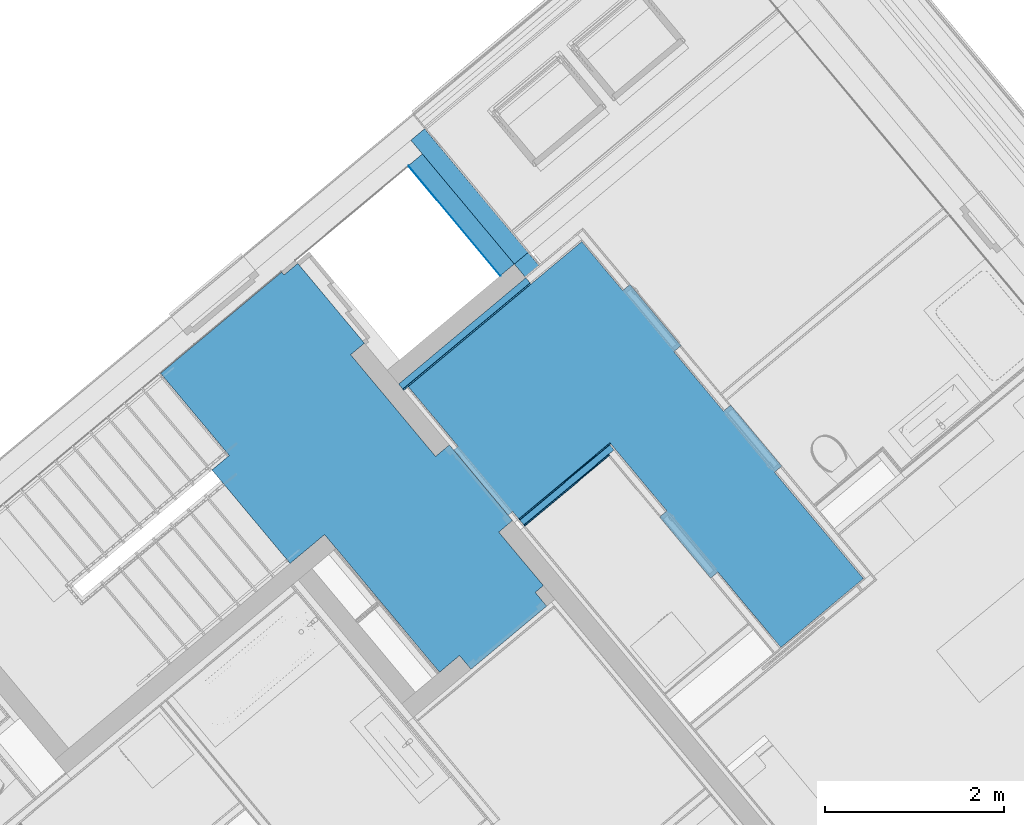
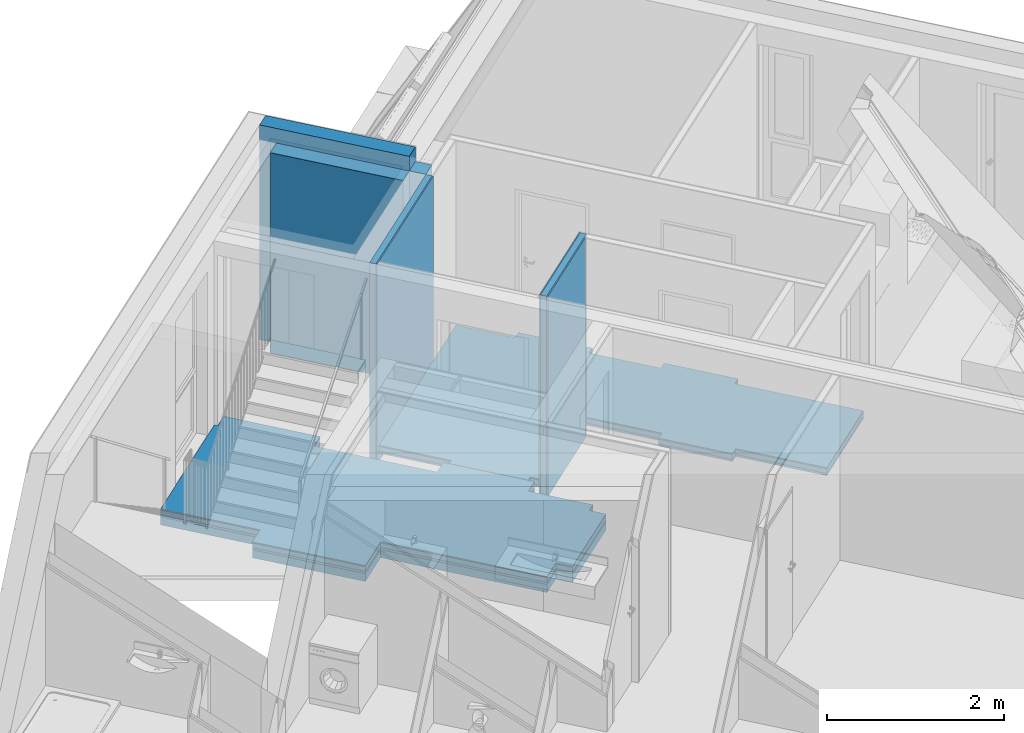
# One storey, part 36 of 61: 15 building element parts, 5 elements without a shape of their own.
"""IFC4 building model written with IfcOpenShell, lengths in metres."""

from ifc_helpers import new_model, entity, si_unit, converted_unit, derived_unit, direction, frame, origin_with_axes, place, context, subcontext, project, spatial, polygons, material, type_object, element, aggregate, save


model = new_model("IFC4")

# Units and contexts
model_context = context("Model", 3, precision=1e-05, world=origin_with_axes(), true_north=direction((0.0, 1.0)))
body_context = subcontext(model_context, "Body", "Model", "MODEL_VIEW")
ifc_project = project(units=[si_unit("LENGTHUNIT", "METRE"), si_unit("AREAUNIT", "SQUARE_METRE"), si_unit("VOLUMEUNIT", "CUBIC_METRE"), converted_unit("PLANEANGLEUNIT", "DEGREE", entity("IfcPlaneAngleMeasure", 0.0174532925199), si_unit("PLANEANGLEUNIT", "RADIAN"), dimensions=[0, 0, 0, 0, 0, 0, 0]), converted_unit("TIMEUNIT", "Year", entity("IfcTimeMeasure", 31556926.0), si_unit("TIMEUNIT", "SECOND"), dimensions=[0, 0, 1, 0, 0, 0, 0]), si_unit("MASSUNIT", "GRAM", prefix="KILO"), si_unit("THERMODYNAMICTEMPERATUREUNIT", "DEGREE_CELSIUS"), si_unit("LUMINOUSINTENSITYUNIT", "LUMEN"), si_unit("ENERGYUNIT", "JOULE", prefix="MEGA"), derived_unit("THERMALCONDUCTANCEUNIT", [(si_unit("POWERUNIT", "WATT"), 1), (si_unit("LENGTHUNIT", "METRE"), -1), (si_unit("THERMODYNAMICTEMPERATUREUNIT", "KELVIN"), -1)]), derived_unit("SPECIFICHEATCAPACITYUNIT", [(si_unit("ENERGYUNIT", "JOULE"), 1), (si_unit("MASSUNIT", "GRAM", prefix="KILO"), -1), (si_unit("THERMODYNAMICTEMPERATUREUNIT", "KELVIN"), -1)]), derived_unit("MASSDENSITYUNIT", [(si_unit("MASSUNIT", "GRAM", prefix="KILO"), 1), (si_unit("VOLUMEUNIT", "CUBIC_METRE"), -1)])], contexts=[model_context])

# Site, building, storey
site_placement = place(None, frame((-0.00153261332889, -0.00661245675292, 0.0), z_axis=(0.0, 0.0, 1.0), x_axis=(1.0, 0.0, 0.0)))
site = spatial("IfcSite", under=ifc_project, at=site_placement, Name="Gelände", CompositionType="ELEMENT")
building_placement = place(site_placement, origin_with_axes())
building = spatial("IfcBuilding", under=site, at=building_placement, Name="Gebäude", CompositionType="ELEMENT")
storey_placement = place(building_placement, frame((0.0, 0.0, 5.7), z_axis=(0.0, 0.0, 1.0), x_axis=(1.0, 0.0, 0.0)))
storey = spatial("IfcBuildingStorey", under=building, at=storey_placement, Name="DG1", CompositionType="ELEMENT", Elevation=5.7)

# Wall, building element parts
wall_type_1 = type_object("IfcWallType", Name="IW LB 01 Leichtbautrennwand einfach 10,5 cm 105", PredefinedType="NOTDEFINED")
wall_1_placement = place(storey_placement, frame((2.89957040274, 23.0457904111, 0.0), z_axis=(0.0, 0.0, 1.0), x_axis=(0.767365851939, 0.641209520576, 0.0)))
wall_1 = element("IfcWall", 1, at=wall_1_placement, inside=storey, type_object=wall_type_1, Name="Wand-012", PredefinedType="NOTDEFINED")
ifc_material_1 = material(Name="Gipskarton")
building_element_part_1_placement = place(wall_1_placement, origin_with_axes())
building_element_part_1 = element("IfcBuildingElementPart", 2, at=building_element_part_1_placement, material=ifc_material_1, Name="Gipskarton", PredefinedType="NOTDEFINED", context=body_context, shape_type="Tessellation", body=[
    polygons([(1.32598775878, 0.09, 0.0), (0.00104109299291, 0.09, 0.0), (0.00104083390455, 0.105, 0.0), (1.32598775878, 0.105, 0.0), (1.32598775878, 0.09, 2.76), (0.00104109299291, 0.09, 2.76), (0.00104083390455, 0.105, 2.76), (1.32598775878, 0.105, 2.76)], [[[1, 2, 3, 4]], [[5, 6, 2, 1]], [[3, 2, 6, 7]], [[4, 3, 7, 8]], [[4, 8, 5, 1]], [[8, 7, 6, 5]]], closed=True),
])
ifc_material_2 = material(Name="Mineralwolle weich")
building_element_part_2_placement = place(wall_1_placement, origin_with_axes())
building_element_part_2 = element("IfcBuildingElementPart", 3, at=building_element_part_2_placement, material=ifc_material_2, Name="Mineralwolle weich", PredefinedType="NOTDEFINED", context=body_context, shape_type="Tessellation", body=[
    polygons([(1.31098775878, 0.015, 0.0), (0.00104238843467, 0.015, 0.0), (0.00104109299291, 0.09, 0.0), (1.31098775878, 0.09, 0.0), (1.31098775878, 0.015, 2.76), (0.00104238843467, 0.015, 2.76), (0.00104109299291, 0.09, 2.76), (1.31098775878, 0.09, 2.76)], [[[1, 2, 3, 4]], [[5, 6, 2, 1]], [[3, 2, 6, 7]], [[4, 3, 7, 8]], [[4, 8, 5, 1]], [[8, 7, 6, 5]]], closed=True),
])
building_element_part_3_placement = place(wall_1_placement, origin_with_axes())
building_element_part_3 = element("IfcBuildingElementPart", 4, at=building_element_part_3_placement, material=ifc_material_1, Name="Gipskarton", PredefinedType="NOTDEFINED", context=body_context, shape_type="Tessellation", body=[
    polygons([(1.23598775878, 0.0, 0.0), (0.00104264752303, 0.0, 0.0), (0.00104238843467, 0.015, 0.0), (1.23598775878, 0.015, 0.0), (1.23598775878, 0.0, 2.76), (0.00104264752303, 0.0, 2.76), (0.00104238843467, 0.015, 2.76), (1.23598775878, 0.015, 2.76)], [[[1, 2, 3, 4]], [[5, 6, 2, 1]], [[3, 2, 6, 7]], [[4, 3, 7, 8]], [[4, 8, 5, 1]], [[8, 7, 6, 5]]], closed=True),
])
aggregate(wall_1, [building_element_part_1, building_element_part_2, building_element_part_3])

wall_type_2 = type_object("IfcWallType", Name="LB 9,0 cm einfache Vorsatzschale  90", PredefinedType="NOTDEFINED")
wall_2_placement = place(storey_placement, frame((1.49097783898, 24.6317179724, 0.0), z_axis=(0.0, 0.0, 1.0), x_axis=(0.767354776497, 0.641222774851, 0.0)))
wall_2 = element("IfcWall", 5, at=wall_2_placement, inside=storey, type_object=wall_type_2, Name="Wand-006", PredefinedType="NOTDEFINED")
building_element_part_4_placement = place(wall_2_placement, origin_with_axes())
building_element_part_4 = element("IfcBuildingElementPart", 6, at=building_element_part_4_placement, material=ifc_material_2, Name="Mineralwolle weich", PredefinedType="NOTDEFINED", context=body_context, shape_type="Tessellation", body=[
    polygons([(1.85060898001, -0.075, 2.76), (1.85060898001, 0.0, 2.76), (0.000912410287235, 0.0, 2.76), (0.000906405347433, -0.075, 2.76), (1.85060898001, -0.075, 0.0), (1.85060898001, 0.0, 0.0), (0.000912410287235, 0.0, 0.0), (0.000906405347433, -0.075, 0.0)], [[[1, 2, 3, 4]], [[1, 5, 6, 2]], [[2, 6, 7, 3]], [[4, 3, 7, 8]], [[5, 1, 4, 8]], [[6, 5, 8, 7]]], closed=True),
])
building_element_part_5_placement = place(wall_2_placement, origin_with_axes())
building_element_part_5 = element("IfcBuildingElementPart", 7, at=building_element_part_5_placement, material=ifc_material_1, Name="Gipskarton", PredefinedType="NOTDEFINED", context=body_context, shape_type="Tessellation", body=[
    polygons([(1.85060898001, -0.09, 2.76), (1.85060898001, -0.075, 2.76), (0.000906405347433, -0.075, 2.76), (0.000905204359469, -0.09, 2.76), (1.85060898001, -0.09, 0.0), (1.85060898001, -0.075, 0.0), (0.000906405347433, -0.075, 0.0), (0.000905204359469, -0.09, 0.0)], [[[1, 2, 3, 4]], [[1, 5, 6, 2]], [[2, 6, 7, 3]], [[4, 3, 7, 8]], [[5, 1, 4, 8]], [[6, 5, 8, 7]]], closed=True),
])
aggregate(wall_2, [building_element_part_4, building_element_part_5])

# Space
space_placement = place(storey_placement, frame((2.62932542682, 25.8435926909, 0.0), z_axis=(0.0, 0.0, 1.0), x_axis=(-0.641209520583, 0.767365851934, 0.0)))
space = spatial("IfcSpace", under=storey, at=space_placement, CompositionType="ELEMENT", PredefinedType="NOTDEFINED")

# Wall, building element parts
wall_type_3 = type_object("IfcWallType", Name="AW EG 420", PredefinedType="NOTDEFINED")
wall_3_placement = place(space_placement, frame((2.84223588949e-05, 0.00499999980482, 0.0), z_axis=(0.0, 0.0, 1.0), x_axis=(1.0, 0.0, 0.0)))
wall_3 = element("IfcWall", 8, at=wall_3_placement, inside=space, type_object=wall_type_3, Name="Wand-003", PredefinedType="NOTDEFINED")
ifc_material_3 = material(Name="Zementputz")
building_element_part_6_placement = place(wall_3_placement, origin_with_axes())
building_element_part_6 = element("IfcBuildingElementPart", 9, at=building_element_part_6_placement, material=ifc_material_3, Name="Zementputz", PredefinedType="NOTDEFINED", context=body_context, shape_type="Tessellation", body=[
    polygons([(1.5961158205, -0.00499999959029, 2.76), (8.63627036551e-08, -0.00499999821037, 2.76), (8.63627320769e-08, -0.005, 0.0), (1.5961158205, -0.005, 0.0), (0.0, 0.0, 2.76), (1.5961158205, 0.0, 2.76), (0.0, 0.0, 0.0), (1.5961158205, 0.0, 0.0)], [[[1, 2, 3, 4]], [[5, 2, 1, 6]], [[2, 5, 7, 3]], [[7, 8, 4, 3]], [[6, 1, 4, 8]], [[5, 6, 8, 7]]], closed=True),
])
ifc_material_4 = material(Name="Stahlbeton Wand")
building_element_part_7_placement = place(wall_3_placement, origin_with_axes())
building_element_part_7 = element("IfcBuildingElementPart", 10, at=building_element_part_7_placement, material=ifc_material_4, Name="Stahlbeton Wand", PredefinedType="NOTDEFINED", context=body_context, shape_type="Tessellation", body=[
    polygons([(1.6011158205, -0.204998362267, 2.76), (3.54084305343e-06, -0.204998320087, 2.76), (3.54087206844e-06, -0.205, 0.0), (1.6011158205, -0.205, 0.0), (8.63627036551e-08, -0.00499999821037, 2.76), (1.6011158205, -0.00499999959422, 2.76), (8.63627320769e-08, -0.005, 0.0), (1.6011158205, -0.005, 0.0)], [[[1, 2, 3, 4]], [[5, 2, 1, 6]], [[2, 5, 7, 3]], [[7, 8, 4, 3]], [[6, 1, 4, 8]], [[5, 6, 8, 7]]], closed=True),
])
ifc_material_5 = material(Name="EPS 1")
building_element_part_8_placement = place(wall_3_placement, origin_with_axes())
building_element_part_8 = element("IfcBuildingElementPart", 11, at=building_element_part_8_placement, material=ifc_material_5, Name="EPS 1", PredefinedType="NOTDEFINED", context=body_context, shape_type="Tessellation", body=[
    polygons([(1.8011158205, -0.404999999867, 2.9599999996), (0.0, -0.404999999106, 2.95999999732), (0.0, -0.404999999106, 2.76), (-0.199993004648, -0.404999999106, 2.76), (-0.199993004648, -0.405, 0.0), (1.8011158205, -0.405, 0.0), (1.8011158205, -0.205000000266, 2.9599999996), (0.0, -0.205000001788, 2.95999999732), (0.0, -0.205000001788, 2.76), (-0.199996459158, -0.205000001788, 2.76), (-0.199996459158, -0.205, 0.0), (1.8011158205, -0.205, 0.0)], [[[1, 2, 3, 4, 5, 6]], [[7, 8, 2, 1]], [[9, 3, 2, 8]], [[9, 10, 4, 3]], [[5, 4, 10, 11]], [[6, 5, 11, 12]], [[1, 6, 12, 7]], [[10, 9, 8, 7, 12, 11]]], closed=True),
])
aggregate(wall_3, [building_element_part_6, building_element_part_7, building_element_part_8])

# Covering, building element parts
covering_type = type_object("IfcCoveringType", Name="DE 01 Decke Wohnung/Wohnung Fließen 220", PredefinedType="NOTDEFINED")
covering_1_placement = place(storey_placement, frame((0.186433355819, 25.8823468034, 0.22), z_axis=(0.0, 0.0, 1.0), x_axis=(1.0, 0.0, 0.0)))
covering_1 = element("IfcCovering", 12, at=covering_1_placement, inside=storey, type_object=covering_type, Name="Decke-001", PredefinedType="NOTDEFINED")
ifc_material_6 = material(Name="Fliesen")
building_element_part_9_placement = place(covering_1_placement, origin_with_axes())
building_element_part_9 = element("IfcBuildingElementPart", 13, at=building_element_part_9_placement, material=ifc_material_6, Name="Fliesen", PredefinedType="NOTDEFINED", context=body_context, shape_type="Tessellation", body=[
    polygons([(0.0938673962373, -3.25162003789, -0.015), (0.286905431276, -3.09031781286, -0.015), (0.478971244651, -2.92982796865, -0.015), (0.478971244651, -2.92982796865, 0.0), (0.286905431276, -3.09031781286, 0.0), (0.0938673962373, -3.25162003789, 0.0), (-0.778128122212, -2.208157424, -0.015), (-0.584981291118, -2.04678108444, -0.015), (-1.35152231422, -1.12932957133, -0.015), (0.0, 0.0, -0.015), (0.0263065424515, -0.0315126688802, -0.015), (0.0264523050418, -0.031390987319, -0.015), (0.0265050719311, -0.0314541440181, -0.015), (0.179840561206, 0.0966564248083, -0.015), (0.923221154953, -0.793840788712, -0.015), (0.769687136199, -0.922009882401, -0.015), (1.71748165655, -2.05737494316, -0.015), (1.71846144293, -2.05655702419, -0.015), (1.71851403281, -2.05661996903, -0.015), (1.87101560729, -1.92920584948, -0.015), (2.57594545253, -2.77364288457, -0.015), (2.42241150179, -2.90181197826, -0.015), (2.92064867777, -3.49865129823, -0.015), (2.82949713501, -3.57474389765, -0.015), (2.9576662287, -3.72827791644, -0.015), (2.11322919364, -4.43320776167, -0.015), (1.98506009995, -4.27967374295, -0.015), (1.76163589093, -4.4661866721, -0.015), (0.607213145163, -3.08330113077, -0.015), (0.607213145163, -3.08330113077, 0.0), (-0.584981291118, -2.04678108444, 0.0), (-0.778128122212, -2.208157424, 0.0), (1.76163589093, -4.4661866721, 0.0), (1.98506009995, -4.27967374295, 0.0), (2.11322919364, -4.43320776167, 0.0), (2.9576662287, -3.72827791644, 0.0), (2.82949713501, -3.57474389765, 0.0), (2.92064867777, -3.49865129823, 0.0), (2.42241150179, -2.90181197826, 0.0), (2.57594545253, -2.77364288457, 0.0), (1.87101560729, -1.92920584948, 0.0), (1.71851403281, -2.05661996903, 0.0), (1.71846144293, -2.05655702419, 0.0), (1.71748165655, -2.05737494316, 0.0), (0.769687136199, -0.922009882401, 0.0), (0.923221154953, -0.793840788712, 0.0), (0.179840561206, 0.0966564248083, 0.0), (0.0265050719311, -0.0314541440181, 0.0), (0.0264523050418, -0.031390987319, 0.0), (0.0263065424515, -0.0315126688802, 0.0), (0.0, 0.0, 0.0), (-1.35152231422, -1.12932957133, 0.0)], [[[1, 2, 3, 4, 5, 6]], [[7, 8, 9, 10, 11, 12, 13, 14, 15, 16, 17, 18, 19, 20, 21, 22, 23, 24, 25, 26, 27, 28, 29, 3, 2, 1]], [[4, 3, 29, 30]], [[31, 32, 6, 5, 4, 30, 33, 34, 35, 36, 37, 38, 39, 40, 41, 42, 43, 44, 45, 46, 47, 48, 49, 50, 51, 52]], [[7, 1, 6, 32]], [[8, 7, 32, 31]], [[8, 31, 52, 9]], [[52, 51, 10, 9]], [[50, 11, 10, 51]], [[11, 50, 49, 12]], [[13, 12, 49, 48]], [[13, 48, 47, 14]], [[14, 47, 46, 15]], [[45, 16, 15, 46]], [[17, 16, 45, 44]], [[18, 17, 44, 43]], [[19, 18, 43, 42]], [[19, 42, 41, 20]], [[20, 41, 40, 21]], [[39, 22, 21, 40]], [[23, 22, 39, 38]], [[24, 23, 38, 37]], [[36, 25, 24, 37]], [[26, 25, 36, 35]], [[34, 27, 26, 35]], [[33, 28, 27, 34]], [[29, 28, 33, 30]]], closed=True),
])
ifc_material_7 = material(Name="Estrich")
building_element_part_10_placement = place(covering_1_placement, origin_with_axes())
building_element_part_10 = element("IfcBuildingElementPart", 14, at=building_element_part_10_placement, material=ifc_material_7, Name="Estrich", PredefinedType="NOTDEFINED", context=body_context, shape_type="Tessellation", body=[
    polygons([(0.0938673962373, -3.25162003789, -0.08), (0.286905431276, -3.09031781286, -0.08), (0.478971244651, -2.92982796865, -0.08), (0.478971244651, -2.92982796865, -0.015), (0.286905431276, -3.09031781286, -0.015), (0.0938673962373, -3.25162003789, -0.015), (-0.778128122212, -2.208157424, -0.08), (-0.584981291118, -2.04678108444, -0.08), (-1.35152231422, -1.12932957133, -0.08), (0.0, 0.0, -0.08), (0.0263065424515, -0.0315126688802, -0.08), (0.0264523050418, -0.031390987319, -0.08), (0.0265050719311, -0.0314541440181, -0.08), (0.179840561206, 0.0966564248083, -0.08), (0.923221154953, -0.793840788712, -0.08), (0.769687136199, -0.922009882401, -0.08), (1.71748165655, -2.05737494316, -0.08), (1.71846144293, -2.05655702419, -0.08), (1.71851403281, -2.05661996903, -0.08), (1.87101560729, -1.92920584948, -0.08), (2.57594545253, -2.77364288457, -0.08), (2.42241150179, -2.90181197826, -0.08), (2.92064867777, -3.49865129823, -0.08), (2.82949713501, -3.57474389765, -0.08), (2.9576662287, -3.72827791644, -0.08), (2.11322919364, -4.43320776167, -0.08), (1.98506009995, -4.27967374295, -0.08), (1.76163589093, -4.4661866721, -0.08), (0.607213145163, -3.08330113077, -0.08), (0.607213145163, -3.08330113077, -0.015), (-0.584981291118, -2.04678108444, -0.015), (-0.778128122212, -2.208157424, -0.015), (1.76163589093, -4.4661866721, -0.015), (1.98506009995, -4.27967374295, -0.015), (2.11322919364, -4.43320776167, -0.015), (2.9576662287, -3.72827791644, -0.015), (2.82949713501, -3.57474389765, -0.015), (2.92064867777, -3.49865129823, -0.015), (2.42241150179, -2.90181197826, -0.015), (2.57594545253, -2.77364288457, -0.015), (1.87101560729, -1.92920584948, -0.015), (1.71851403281, -2.05661996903, -0.015), (1.71846144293, -2.05655702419, -0.015), (1.71748165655, -2.05737494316, -0.015), (0.769687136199, -0.922009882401, -0.015), (0.923221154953, -0.793840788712, -0.015), (0.179840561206, 0.0966564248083, -0.015), (0.0265050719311, -0.0314541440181, -0.015), (0.0264523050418, -0.031390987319, -0.015), (0.0263065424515, -0.0315126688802, -0.015), (0.0, 0.0, -0.015), (-1.35152231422, -1.12932957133, -0.015)], [[[1, 2, 3, 4, 5, 6]], [[7, 8, 9, 10, 11, 12, 13, 14, 15, 16, 17, 18, 19, 20, 21, 22, 23, 24, 25, 26, 27, 28, 29, 3, 2, 1]], [[4, 3, 29, 30]], [[31, 32, 6, 5, 4, 30, 33, 34, 35, 36, 37, 38, 39, 40, 41, 42, 43, 44, 45, 46, 47, 48, 49, 50, 51, 52]], [[7, 1, 6, 32]], [[8, 7, 32, 31]], [[8, 31, 52, 9]], [[9, 52, 51, 10]], [[50, 11, 10, 51]], [[12, 11, 50, 49]], [[13, 12, 49, 48]], [[13, 48, 47, 14]], [[14, 47, 46, 15]], [[45, 16, 15, 46]], [[17, 16, 45, 44]], [[18, 17, 44, 43]], [[19, 18, 43, 42]], [[19, 42, 41, 20]], [[20, 41, 40, 21]], [[39, 22, 21, 40]], [[23, 22, 39, 38]], [[24, 23, 38, 37]], [[36, 25, 24, 37]], [[26, 25, 36, 35]], [[34, 27, 26, 35]], [[33, 28, 27, 34]], [[29, 28, 33, 30]]], closed=True),
])
ifc_material_8 = material(Name="Trittschalldämmung")
building_element_part_11_placement = place(covering_1_placement, origin_with_axes())
building_element_part_11 = element("IfcBuildingElementPart", 15, at=building_element_part_11_placement, material=ifc_material_8, Name="Trittschalldämmung", PredefinedType="NOTDEFINED", context=body_context, shape_type="Tessellation", body=[
    polygons([(0.0938673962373, -3.25162003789, -0.11), (0.286905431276, -3.09031781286, -0.11), (0.478971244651, -2.92982796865, -0.11), (0.478971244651, -2.92982796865, -0.08), (0.286905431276, -3.09031781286, -0.08), (0.0938673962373, -3.25162003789, -0.08), (-0.778128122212, -2.208157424, -0.11), (-0.584981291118, -2.04678108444, -0.11), (-1.35152231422, -1.12932957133, -0.11), (0.0, 0.0, -0.11), (0.0263065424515, -0.0315126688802, -0.11), (0.0264523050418, -0.031390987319, -0.11), (0.0265050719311, -0.0314541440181, -0.11), (0.179840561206, 0.0966564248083, -0.11), (0.923221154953, -0.793840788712, -0.11), (0.769687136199, -0.922009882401, -0.11), (1.71748165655, -2.05737494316, -0.11), (1.71846144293, -2.05655702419, -0.11), (1.71851403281, -2.05661996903, -0.11), (1.87101560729, -1.92920584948, -0.11), (2.57594545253, -2.77364288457, -0.11), (2.42241150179, -2.90181197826, -0.11), (2.92064867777, -3.49865129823, -0.11), (2.82949713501, -3.57474389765, -0.11), (2.9576662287, -3.72827791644, -0.11), (2.11322919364, -4.43320776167, -0.11), (1.98506009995, -4.27967374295, -0.11), (1.76163589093, -4.4661866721, -0.11), (0.607213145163, -3.08330113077, -0.11), (0.607213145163, -3.08330113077, -0.08), (-0.584981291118, -2.04678108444, -0.08), (-0.778128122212, -2.208157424, -0.08), (1.76163589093, -4.4661866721, -0.08), (1.98506009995, -4.27967374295, -0.08), (2.11322919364, -4.43320776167, -0.08), (2.9576662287, -3.72827791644, -0.08), (2.82949713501, -3.57474389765, -0.08), (2.92064867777, -3.49865129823, -0.08), (2.42241150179, -2.90181197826, -0.08), (2.57594545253, -2.77364288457, -0.08), (1.87101560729, -1.92920584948, -0.08), (1.71851403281, -2.05661996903, -0.08), (1.71846144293, -2.05655702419, -0.08), (1.71748165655, -2.05737494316, -0.08), (0.769687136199, -0.922009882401, -0.08), (0.923221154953, -0.793840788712, -0.08), (0.179840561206, 0.0966564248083, -0.08), (0.0265050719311, -0.0314541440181, -0.08), (0.0264523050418, -0.031390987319, -0.08), (0.0263065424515, -0.0315126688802, -0.08), (0.0, 0.0, -0.08), (-1.35152231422, -1.12932957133, -0.08)], [[[1, 2, 3, 4, 5, 6]], [[7, 8, 9, 10, 11, 12, 13, 14, 15, 16, 17, 18, 19, 20, 21, 22, 23, 24, 25, 26, 27, 28, 29, 3, 2, 1]], [[4, 3, 29, 30]], [[31, 32, 6, 5, 4, 30, 33, 34, 35, 36, 37, 38, 39, 40, 41, 42, 43, 44, 45, 46, 47, 48, 49, 50, 51, 52]], [[7, 1, 6, 32]], [[8, 7, 32, 31]], [[8, 31, 52, 9]], [[9, 52, 51, 10]], [[50, 11, 10, 51]], [[12, 11, 50, 49]], [[13, 12, 49, 48]], [[13, 48, 47, 14]], [[14, 47, 46, 15]], [[45, 16, 15, 46]], [[17, 16, 45, 44]], [[18, 17, 44, 43]], [[19, 18, 43, 42]], [[19, 42, 41, 20]], [[20, 41, 40, 21]], [[39, 22, 21, 40]], [[23, 22, 39, 38]], [[24, 23, 38, 37]], [[36, 25, 24, 37]], [[26, 25, 36, 35]], [[34, 27, 26, 35]], [[33, 28, 27, 34]], [[29, 28, 33, 30]]], closed=True),
])
ifc_material_9 = material(Name="Schüttung")
building_element_part_12_placement = place(covering_1_placement, origin_with_axes())
building_element_part_12 = element("IfcBuildingElementPart", 16, at=building_element_part_12_placement, material=ifc_material_9, Name="Schüttung", PredefinedType="NOTDEFINED", context=body_context, shape_type="Tessellation", body=[
    polygons([(0.0938673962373, -3.25162003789, -0.22), (0.286905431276, -3.09031781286, -0.22), (0.478971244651, -2.92982796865, -0.22), (0.478971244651, -2.92982796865, -0.11), (0.286905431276, -3.09031781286, -0.11), (0.0938673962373, -3.25162003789, -0.11), (-0.778128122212, -2.208157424, -0.22), (-0.584981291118, -2.04678108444, -0.22), (-1.35152231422, -1.12932957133, -0.22), (0.0, 0.0, -0.22), (0.0263065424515, -0.0315126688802, -0.22), (0.0264523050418, -0.031390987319, -0.22), (0.0265050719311, -0.0314541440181, -0.22), (0.179840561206, 0.0966564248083, -0.22), (0.923221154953, -0.793840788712, -0.22), (0.769687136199, -0.922009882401, -0.22), (1.71748165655, -2.05737494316, -0.22), (1.71846144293, -2.05655702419, -0.22), (1.71851403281, -2.05661996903, -0.22), (1.87101560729, -1.92920584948, -0.22), (2.57594545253, -2.77364288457, -0.22), (2.42241150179, -2.90181197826, -0.22), (2.92064867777, -3.49865129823, -0.22), (2.82949713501, -3.57474389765, -0.22), (2.9576662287, -3.72827791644, -0.22), (2.11322919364, -4.43320776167, -0.22), (1.98506009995, -4.27967374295, -0.22), (1.76163589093, -4.4661866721, -0.22), (0.607213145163, -3.08330113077, -0.22), (0.607213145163, -3.08330113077, -0.11), (-0.584981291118, -2.04678108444, -0.11), (-0.778128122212, -2.208157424, -0.11), (1.76163589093, -4.4661866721, -0.11), (1.98506009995, -4.27967374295, -0.11), (2.11322919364, -4.43320776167, -0.11), (2.9576662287, -3.72827791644, -0.11), (2.82949713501, -3.57474389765, -0.11), (2.92064867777, -3.49865129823, -0.11), (2.42241150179, -2.90181197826, -0.11), (2.57594545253, -2.77364288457, -0.11), (1.87101560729, -1.92920584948, -0.11), (1.71851403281, -2.05661996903, -0.11), (1.71846144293, -2.05655702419, -0.11), (1.71748165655, -2.05737494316, -0.11), (0.769687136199, -0.922009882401, -0.11), (0.923221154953, -0.793840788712, -0.11), (0.179840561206, 0.0966564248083, -0.11), (0.0265050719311, -0.0314541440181, -0.11), (0.0264523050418, -0.031390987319, -0.11), (0.0263065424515, -0.0315126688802, -0.11), (0.0, 0.0, -0.11), (-1.35152231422, -1.12932957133, -0.11)], [[[1, 2, 3, 4, 5, 6]], [[7, 8, 9, 10, 11, 12, 13, 14, 15, 16, 17, 18, 19, 20, 21, 22, 23, 24, 25, 26, 27, 28, 29, 3, 2, 1]], [[4, 3, 29, 30]], [[31, 32, 6, 5, 4, 30, 33, 34, 35, 36, 37, 38, 39, 40, 41, 42, 43, 44, 45, 46, 47, 48, 49, 50, 51, 52]], [[7, 1, 6, 32]], [[8, 7, 32, 31]], [[8, 31, 52, 9]], [[9, 52, 51, 10]], [[50, 11, 10, 51]], [[11, 50, 49, 12]], [[13, 12, 49, 48]], [[13, 48, 47, 14]], [[14, 47, 46, 15]], [[45, 16, 15, 46]], [[17, 16, 45, 44]], [[18, 17, 44, 43]], [[19, 18, 43, 42]], [[19, 42, 41, 20]], [[20, 41, 40, 21]], [[39, 22, 21, 40]], [[23, 22, 39, 38]], [[24, 23, 38, 37]], [[36, 25, 24, 37]], [[26, 25, 36, 35]], [[34, 27, 26, 35]], [[28, 27, 34, 33]], [[29, 28, 33, 30]]], closed=True),
])
aggregate(covering_1, [building_element_part_9, building_element_part_10, building_element_part_11, building_element_part_12])

covering_2_placement = place(storey_placement, frame((3.53540854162, 26.2228144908, 0.22), z_axis=(0.0, 0.0, 1.0), x_axis=(1.0, 0.0, 0.0)))
covering_2 = element("IfcCovering", 17, at=covering_2_placement, inside=storey, type_object=covering_type, Name="Decke-001", PredefinedType="NOTDEFINED")
building_element_part_13_placement = place(covering_2_placement, origin_with_axes())
building_element_part_13 = element("IfcBuildingElementPart", 18, at=building_element_part_13_placement, material=ifc_material_6, Name="Fliesen", PredefinedType="NOTDEFINED", context=body_context, shape_type="Tessellation", body=[
    polygons([(-1.42889265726, -2.32641105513, 0.0), (-0.819789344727, -3.0554469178, 0.0), (-0.781988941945, -3.02389139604, 0.0), (-0.784605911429, -3.02075965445, 0.0), (-0.773095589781, -3.01114131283, 0.0), (-0.702366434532, -3.09578327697, 0.0), (0.314352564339, -2.24621466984, 0.0), (0.948949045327, -3.00566633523, 0.0), (0.86837563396, -3.07299338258, 0.0), (1.43905209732, -3.75594898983, 0.0), (1.5196247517, -3.68862254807, 0.0), (2.22264850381, -4.52996639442, 0.0), (3.1432594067, -3.76168765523, 0.0), (2.15130708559, -2.57457127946, 0.0), (2.23188049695, -2.50724423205, 0.0), (1.66120403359, -1.8242886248, 0.0), (1.58063062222, -1.89161567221, 0.0), (1.02722238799, -1.22932570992, 0.0), (1.10779579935, -1.16199873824, 0.0), (0.53711933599, -0.479043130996, 0.0), (0.456545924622, -0.546370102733, 0.0), (0.0, 0.0, 0.0), (-1.93684258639, -1.61847896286, 0.0), (-1.38225722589, -2.28215427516, 0.0), (-1.38261755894, -2.28245537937, 0.0), (-1.37999762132, -2.28559380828, 0.0), (-0.819789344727, -3.0554469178, -0.015), (-1.42889265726, -2.32641105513, -0.015), (-0.781988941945, -3.02389139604, -0.015), (-0.784605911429, -3.02075965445, -0.015), (-0.773095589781, -3.01114131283, -0.015), (-0.702366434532, -3.09578327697, -0.015), (0.314352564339, -2.24621466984, -0.015), (0.948949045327, -3.00566633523, -0.015), (0.86837563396, -3.07299338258, -0.015), (1.43905209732, -3.75594898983, -0.015), (1.5196247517, -3.68862254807, -0.015), (2.22264850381, -4.52996639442, -0.015), (3.1432594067, -3.76168765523, -0.015), (2.15130708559, -2.57457127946, -0.015), (2.23188049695, -2.50724423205, -0.015), (1.66120403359, -1.8242886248, -0.015), (1.58063062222, -1.89161567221, -0.015), (1.02722238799, -1.22932570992, -0.015), (1.10779579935, -1.16199873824, -0.015), (0.53711933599, -0.479043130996, -0.015), (0.456545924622, -0.546370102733, -0.015), (0.0, 0.0, -0.015), (-1.93684258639, -1.61847896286, -0.015), (-1.38225722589, -2.28215427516, -0.015), (-1.38261755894, -2.28245537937, -0.015), (-1.37999762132, -2.28559380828, -0.015)], [[[1, 2, 3, 4, 5, 6, 7, 8, 9, 10, 11, 12, 13, 14, 15, 16, 17, 18, 19, 20, 21, 22, 23, 24, 25, 26]], [[27, 2, 1, 28]], [[2, 27, 29, 3]], [[4, 3, 29, 30]], [[5, 4, 30, 31]], [[32, 6, 5, 31]], [[6, 32, 33, 7]], [[33, 34, 8, 7]], [[34, 35, 9, 8]], [[35, 36, 10, 9]], [[36, 37, 11, 10]], [[37, 38, 12, 11]], [[38, 39, 13, 12]], [[39, 40, 14, 13]], [[40, 41, 15, 14]], [[41, 42, 16, 15]], [[42, 43, 17, 16]], [[43, 44, 18, 17]], [[44, 45, 19, 18]], [[45, 46, 20, 19]], [[46, 47, 21, 20]], [[47, 48, 22, 21]], [[49, 23, 22, 48]], [[24, 23, 49, 50]], [[25, 24, 50, 51]], [[25, 51, 52, 26]], [[28, 1, 26, 52]], [[27, 28, 52, 51, 50, 49, 48, 47, 46, 45, 44, 43, 42, 41, 40, 39, 38, 37, 36, 35, 34, 33, 32, 31, 30, 29]]], closed=True),
])
building_element_part_14_placement = place(covering_2_placement, origin_with_axes())
building_element_part_14 = element("IfcBuildingElementPart", 19, at=building_element_part_14_placement, material=ifc_material_7, Name="Estrich", PredefinedType="NOTDEFINED", context=body_context, shape_type="Tessellation", body=[
    polygons([(-1.42889265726, -2.32641105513, -0.015), (-0.819789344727, -3.0554469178, -0.015), (-0.781988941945, -3.02389139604, -0.015), (-0.784605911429, -3.02075965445, -0.015), (-0.773095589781, -3.01114131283, -0.015), (-0.702366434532, -3.09578327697, -0.015), (0.314352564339, -2.24621466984, -0.015), (0.948949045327, -3.00566633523, -0.015), (0.86837563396, -3.07299338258, -0.015), (1.43905209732, -3.75594898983, -0.015), (1.5196247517, -3.68862254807, -0.015), (2.22264850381, -4.52996639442, -0.015), (3.1432594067, -3.76168765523, -0.015), (2.15130708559, -2.57457127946, -0.015), (2.23188049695, -2.50724423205, -0.015), (1.66120403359, -1.8242886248, -0.015), (1.58063062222, -1.89161567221, -0.015), (1.02722238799, -1.22932570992, -0.015), (1.10779579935, -1.16199873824, -0.015), (0.53711933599, -0.479043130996, -0.015), (0.456545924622, -0.546370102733, -0.015), (0.0, 0.0, -0.015), (-1.93684258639, -1.61847896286, -0.015), (-1.38225722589, -2.28215427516, -0.015), (-1.38261755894, -2.28245537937, -0.015), (-1.37999762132, -2.28559380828, -0.015), (-0.819789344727, -3.0554469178, -0.08), (-1.42889265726, -2.32641105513, -0.08), (-0.781988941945, -3.02389139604, -0.08), (-0.784605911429, -3.02075965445, -0.08), (-0.773095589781, -3.01114131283, -0.08), (-0.702366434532, -3.09578327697, -0.08), (0.314352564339, -2.24621466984, -0.08), (0.948949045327, -3.00566633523, -0.08), (0.86837563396, -3.07299338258, -0.08), (1.43905209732, -3.75594898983, -0.08), (1.5196247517, -3.68862254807, -0.08), (2.22264850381, -4.52996639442, -0.08), (3.1432594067, -3.76168765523, -0.08), (2.15130708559, -2.57457127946, -0.08), (2.23188049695, -2.50724423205, -0.08), (1.66120403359, -1.8242886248, -0.08), (1.58063062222, -1.89161567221, -0.08), (1.02722238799, -1.22932570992, -0.08), (1.10779579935, -1.16199873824, -0.08), (0.53711933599, -0.479043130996, -0.08), (0.456545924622, -0.546370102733, -0.08), (0.0, 0.0, -0.08), (-1.93684258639, -1.61847896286, -0.08), (-1.38225722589, -2.28215427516, -0.08), (-1.38261755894, -2.28245537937, -0.08), (-1.37999762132, -2.28559380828, -0.08)], [[[1, 2, 3, 4, 5, 6, 7, 8, 9, 10, 11, 12, 13, 14, 15, 16, 17, 18, 19, 20, 21, 22, 23, 24, 25, 26]], [[27, 2, 1, 28]], [[2, 27, 29, 3]], [[4, 3, 29, 30]], [[5, 4, 30, 31]], [[32, 6, 5, 31]], [[6, 32, 33, 7]], [[33, 34, 8, 7]], [[34, 35, 9, 8]], [[35, 36, 10, 9]], [[36, 37, 11, 10]], [[37, 38, 12, 11]], [[38, 39, 13, 12]], [[39, 40, 14, 13]], [[40, 41, 15, 14]], [[41, 42, 16, 15]], [[42, 43, 17, 16]], [[43, 44, 18, 17]], [[44, 45, 19, 18]], [[45, 46, 20, 19]], [[46, 47, 21, 20]], [[47, 48, 22, 21]], [[49, 23, 22, 48]], [[24, 23, 49, 50]], [[25, 24, 50, 51]], [[25, 51, 52, 26]], [[28, 1, 26, 52]], [[27, 28, 52, 51, 50, 49, 48, 47, 46, 45, 44, 43, 42, 41, 40, 39, 38, 37, 36, 35, 34, 33, 32, 31, 30, 29]]], closed=True),
])
building_element_part_15_placement = place(covering_2_placement, origin_with_axes())
building_element_part_15 = element("IfcBuildingElementPart", 20, at=building_element_part_15_placement, material=ifc_material_8, Name="Trittschalldämmung", PredefinedType="NOTDEFINED", context=body_context, shape_type="Tessellation", body=[
    polygons([(-1.42889265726, -2.32641105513, -0.08), (-0.819789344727, -3.0554469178, -0.08), (-0.781988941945, -3.02389139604, -0.08), (-0.784605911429, -3.02075965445, -0.08), (-0.773095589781, -3.01114131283, -0.08), (-0.702366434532, -3.09578327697, -0.08), (0.314352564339, -2.24621466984, -0.08), (0.948949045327, -3.00566633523, -0.08), (0.86837563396, -3.07299338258, -0.08), (1.43905209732, -3.75594898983, -0.08), (1.5196247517, -3.68862254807, -0.08), (2.22264850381, -4.52996639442, -0.08), (3.1432594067, -3.76168765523, -0.08), (2.15130708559, -2.57457127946, -0.08), (2.23188049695, -2.50724423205, -0.08), (1.66120403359, -1.8242886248, -0.08), (1.58063062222, -1.89161567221, -0.08), (1.02722238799, -1.22932570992, -0.08), (1.10779579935, -1.16199873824, -0.08), (0.53711933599, -0.479043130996, -0.08), (0.456545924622, -0.546370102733, -0.08), (0.0, 0.0, -0.08), (-1.93684258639, -1.61847896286, -0.08), (-1.38225722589, -2.28215427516, -0.08), (-1.38261755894, -2.28245537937, -0.08), (-1.37999762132, -2.28559380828, -0.08), (-0.819789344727, -3.0554469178, -0.11), (-1.42889265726, -2.32641105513, -0.11), (-0.781988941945, -3.02389139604, -0.11), (-0.784605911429, -3.02075965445, -0.11), (-0.773095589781, -3.01114131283, -0.11), (-0.702366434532, -3.09578327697, -0.11), (0.314352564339, -2.24621466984, -0.11), (0.948949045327, -3.00566633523, -0.11), (0.86837563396, -3.07299338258, -0.11), (1.43905209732, -3.75594898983, -0.11), (1.5196247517, -3.68862254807, -0.11), (2.22264850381, -4.52996639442, -0.11), (3.1432594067, -3.76168765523, -0.11), (2.15130708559, -2.57457127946, -0.11), (2.23188049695, -2.50724423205, -0.11), (1.66120403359, -1.8242886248, -0.11), (1.58063062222, -1.89161567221, -0.11), (1.02722238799, -1.22932570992, -0.11), (1.10779579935, -1.16199873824, -0.11), (0.53711933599, -0.479043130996, -0.11), (0.456545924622, -0.546370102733, -0.11), (0.0, 0.0, -0.11), (-1.93684258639, -1.61847896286, -0.11), (-1.38225722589, -2.28215427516, -0.11), (-1.38261755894, -2.28245537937, -0.11), (-1.37999762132, -2.28559380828, -0.11)], [[[1, 2, 3, 4, 5, 6, 7, 8, 9, 10, 11, 12, 13, 14, 15, 16, 17, 18, 19, 20, 21, 22, 23, 24, 25, 26]], [[27, 2, 1, 28]], [[2, 27, 29, 3]], [[4, 3, 29, 30]], [[5, 4, 30, 31]], [[32, 6, 5, 31]], [[6, 32, 33, 7]], [[33, 34, 8, 7]], [[34, 35, 9, 8]], [[35, 36, 10, 9]], [[36, 37, 11, 10]], [[37, 38, 12, 11]], [[38, 39, 13, 12]], [[39, 40, 14, 13]], [[40, 41, 15, 14]], [[41, 42, 16, 15]], [[42, 43, 17, 16]], [[43, 44, 18, 17]], [[44, 45, 19, 18]], [[45, 46, 20, 19]], [[46, 47, 21, 20]], [[47, 48, 22, 21]], [[49, 23, 22, 48]], [[24, 23, 49, 50]], [[25, 24, 50, 51]], [[25, 51, 52, 26]], [[28, 1, 26, 52]], [[27, 28, 52, 51, 50, 49, 48, 47, 46, 45, 44, 43, 42, 41, 40, 39, 38, 37, 36, 35, 34, 33, 32, 31, 30, 29]]], closed=True),
])
aggregate(covering_2, [building_element_part_13, building_element_part_14, building_element_part_15])

save(model, "model.ifc")
